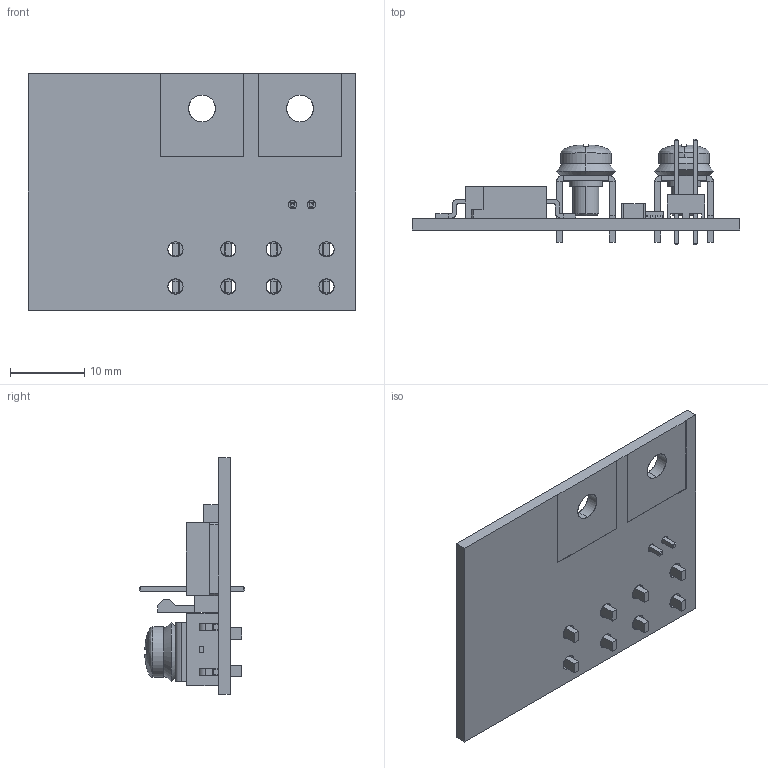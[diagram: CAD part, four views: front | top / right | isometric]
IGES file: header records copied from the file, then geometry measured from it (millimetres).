
Start section: SolidWorks IGES file using analytic representation for surfaces
Global section: file name: C:\Documents and Settings\alfredonuno\Desktop\O-ring PCBA\XL375 ORING DIODE PCBA.IGS; native system: SolidWorks 2011; preprocessor: SolidWorks 2011; author: alfredonuno; date: 110708.094327; units: inch
Bounding box: 44.07 x 14.22 x 31.88 mm (x, y, z)
Surface area: 5539.2 mm2 (no closed solid volume)
Topology: 0 solids, 0 shells, 598 faces, 11616 edges, 14676 vertices
Faces by surface type: bspline 424, revolution 174
